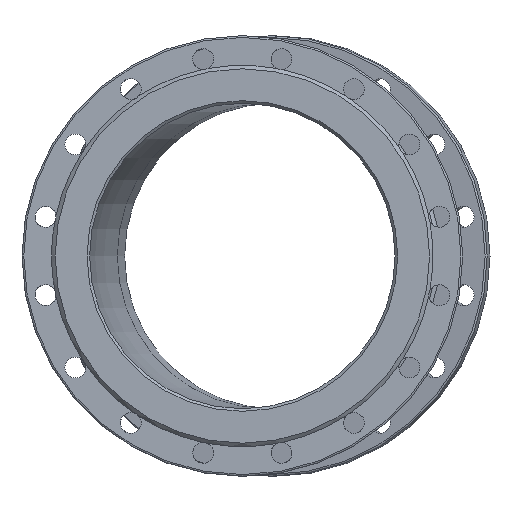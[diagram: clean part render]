
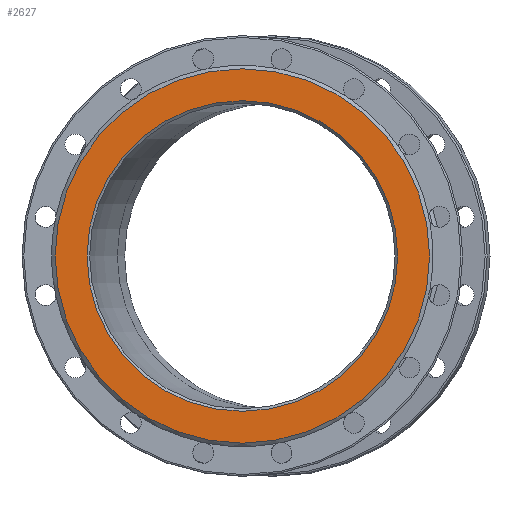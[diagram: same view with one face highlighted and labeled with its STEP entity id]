
A CAD part, left-side view. The second image highlights one B-rep face of the part: STEP entity #2627.
In plain terms, the highlighted planar face has unit normal (-1, 0, 0).
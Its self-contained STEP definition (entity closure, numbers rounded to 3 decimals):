
#47 = CARTESIAN_POINT ( 'NONE',  ( -191., 214.5, 0. ) ) ;
#671 = FACE_OUTER_BOUND ( 'NONE', #2633, .T. ) ;
#728 = EDGE_CURVE ( 'NONE', #2288, #2288, #4691, .T. ) ;
#839 = DIRECTION ( 'NONE',  ( 1., 0., 0. ) ) ;
#977 = DIRECTION ( 'NONE',  ( 1., 0., 0. ) ) ;
#1226 = DIRECTION ( 'NONE',  ( 1., 0., 0. ) ) ;
#1413 = CARTESIAN_POINT ( 'NONE',  ( -191., 0., 0. ) ) ;
#1437 = AXIS2_PLACEMENT_3D ( 'NONE', #1413, #977, #2748 ) ;
#1511 = AXIS2_PLACEMENT_3D ( 'NONE', #2445, #1226, #3791 ) ;
#2207 = CARTESIAN_POINT ( 'NONE',  ( -191., 0., 0. ) ) ;
#2248 = CIRCLE ( 'NONE', #4105, 178. ) ;
#2288 = VERTEX_POINT ( 'NONE', #47 ) ;
#2445 = CARTESIAN_POINT ( 'NONE',  ( -191., 0., 0. ) ) ;
#2499 = ORIENTED_EDGE ( 'NONE', *, *, #3377, .T. ) ;
#2521 = ORIENTED_EDGE ( 'NONE', *, *, #728, .F. ) ;
#2627 = ADVANCED_FACE ( 'NONE', ( #5220, #671 ), #3438, .F. ) ;
#2633 = EDGE_LOOP ( 'NONE', ( #2521 ) ) ;
#2748 = DIRECTION ( 'NONE',  ( 0., 1., 0. ) ) ;
#3278 = EDGE_LOOP ( 'NONE', ( #2499 ) ) ;
#3365 = CARTESIAN_POINT ( 'NONE',  ( -191., 178., 0. ) ) ;
#3377 = EDGE_CURVE ( 'NONE', #4243, #4243, #2248, .T. ) ;
#3438 = PLANE ( 'NONE',  #1511 ) ;
#3791 = DIRECTION ( 'NONE',  ( 0., 1., 0. ) ) ;
#4105 = AXIS2_PLACEMENT_3D ( 'NONE', #2207, #839, #4797 ) ;
#4243 = VERTEX_POINT ( 'NONE', #3365 ) ;
#4691 = CIRCLE ( 'NONE', #1437, 214.5 ) ;
#4797 = DIRECTION ( 'NONE',  ( 0., 1., 0. ) ) ;
#5220 = FACE_BOUND ( 'NONE', #3278, .T. ) ;
